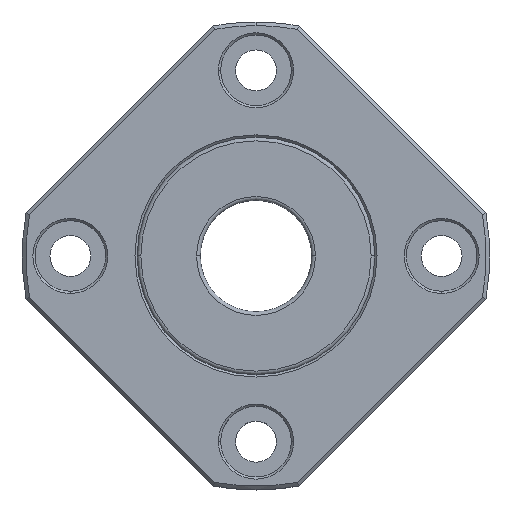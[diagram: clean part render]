
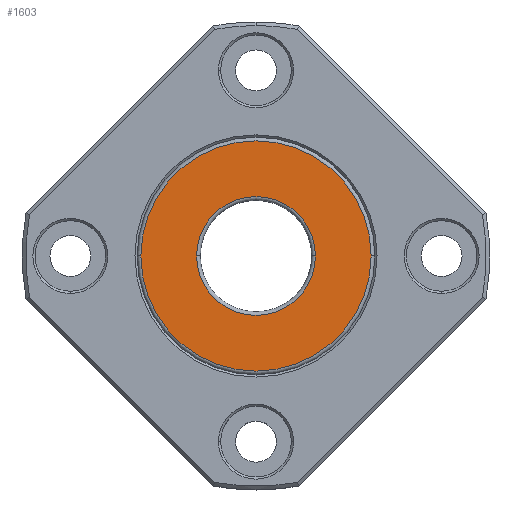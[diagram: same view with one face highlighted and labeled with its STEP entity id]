
A CAD part, top view. The second image highlights one B-rep face of the part: STEP entity #1603.
In plain terms, the highlighted planar face has unit normal (0, 0, 1).
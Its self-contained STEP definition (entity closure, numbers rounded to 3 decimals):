
#67 = EDGE_CURVE ( 'NONE', #2001, #2003, #1672, .T. ) ;
#141 = EDGE_CURVE ( 'NONE', #1985, #1987, #1715, .T. ) ;
#220 = ORIENTED_EDGE ( 'NONE', *, *, #1565, .T. ) ;
#229 = ORIENTED_EDGE ( 'NONE', *, *, #141, .T. ) ;
#232 = ORIENTED_EDGE ( 'NONE', *, *, #1564, .T. ) ;
#251 = ORIENTED_EDGE ( 'NONE', *, *, #67, .T. ) ;
#369 = AXIS2_PLACEMENT_3D ( 'NONE', #2259, #2260, #2261 ) ;
#519 = AXIS2_PLACEMENT_3D ( 'NONE', #802, #803, #804 ) ;
#577 = AXIS2_PLACEMENT_3D ( 'NONE', #989, #990, #991 ) ;
#578 = AXIS2_PLACEMENT_3D ( 'NONE', #992, #993, #994 ) ;
#641 = FACE_BOUND ( 'NONE', #1889, .T. ) ;
#646 = FACE_OUTER_BOUND ( 'NONE', #1892, .T. ) ;
#648 = AXIS2_PLACEMENT_3D ( 'NONE', #1111, #1112, #1113 ) ;
#802 = CARTESIAN_POINT ( 'NONE',  ( 0., 0., 4.5 ) ) ;
#803 = DIRECTION ( 'NONE',  ( 0., 0., 1. ) ) ;
#804 = DIRECTION ( 'NONE',  ( 1., 0., 0. ) ) ;
#989 = CARTESIAN_POINT ( 'NONE',  ( 0., 0., 4.5 ) ) ;
#990 = DIRECTION ( 'NONE',  ( 0., 0., -1. ) ) ;
#991 = DIRECTION ( 'NONE',  ( 1., 0., 0. ) ) ;
#992 = CARTESIAN_POINT ( 'NONE',  ( 0., 0., 4.5 ) ) ;
#993 = DIRECTION ( 'NONE',  ( 0., 0., 1. ) ) ;
#994 = DIRECTION ( 'NONE',  ( 1., 0., 0. ) ) ;
#1110 = PLANE ( 'NONE',  #648 ) ;
#1111 = CARTESIAN_POINT ( 'NONE',  ( 0., 0., 4.5 ) ) ;
#1112 = DIRECTION ( 'NONE',  ( 0., 0., 1. ) ) ;
#1113 = DIRECTION ( 'NONE',  ( 1., 0., 0. ) ) ;
#1292 = CARTESIAN_POINT ( 'NONE',  ( 15.5, 0., 4.5 ) ) ;
#1294 = CARTESIAN_POINT ( 'NONE',  ( -15.5, 0., 4.5 ) ) ;
#1308 = CARTESIAN_POINT ( 'NONE',  ( -8., 0., 4.5 ) ) ;
#1310 = CARTESIAN_POINT ( 'NONE',  ( 8., 0., 4.5 ) ) ;
#1564 = EDGE_CURVE ( 'NONE', #2003, #2001, #1734, .T. ) ;
#1565 = EDGE_CURVE ( 'NONE', #1987, #1985, #1738, .T. ) ;
#1603 = ADVANCED_FACE ( 'NONE', ( #641, #646 ), #1110, .T. ) ;
#1672 = CIRCLE ( 'NONE', #369, 8. ) ;
#1715 = CIRCLE ( 'NONE', #519, 15.5 ) ;
#1734 = CIRCLE ( 'NONE', #577, 8. ) ;
#1738 = CIRCLE ( 'NONE', #578, 15.5 ) ;
#1889 = EDGE_LOOP ( 'NONE', ( #232, #251 ) ) ;
#1892 = EDGE_LOOP ( 'NONE', ( #229, #220 ) ) ;
#1985 = VERTEX_POINT ( 'NONE', #1292 ) ;
#1987 = VERTEX_POINT ( 'NONE', #1294 ) ;
#2001 = VERTEX_POINT ( 'NONE', #1308 ) ;
#2003 = VERTEX_POINT ( 'NONE', #1310 ) ;
#2259 = CARTESIAN_POINT ( 'NONE',  ( 0., 0., 4.5 ) ) ;
#2260 = DIRECTION ( 'NONE',  ( 0., 0., -1. ) ) ;
#2261 = DIRECTION ( 'NONE',  ( 1., 0., 0. ) ) ;
